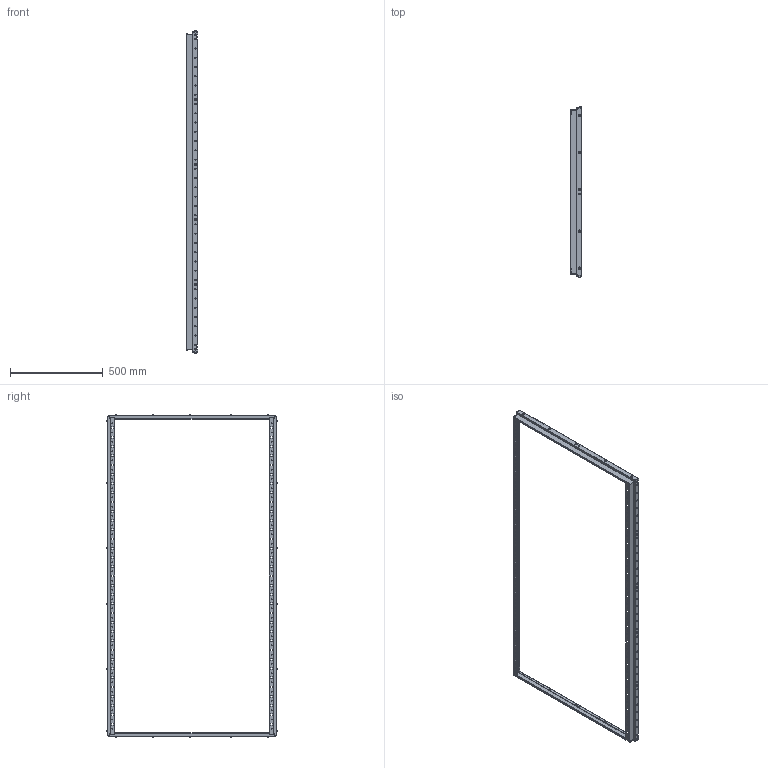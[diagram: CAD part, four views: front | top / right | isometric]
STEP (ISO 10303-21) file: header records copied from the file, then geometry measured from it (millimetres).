
FILE_DESCRIPTION (( 'STEP AP214' ), '1' );
FILE_NAME ('FO-00-UVF-180-100 Ðàìà äëÿ ïëàñòðîíîâ 1800õ1000.STEP', '2025-09-24T13:57:01', ( '' ), ( '' ), 'SwSTEP 2.0', 'SolidWorks 2023', '' );
FILE_SCHEMA (( 'AUTOMOTIVE_DESIGN' ));
Length unit declared in the file: millimetre
Products named in the file (1): FO-00-UVF-180-100 Рама для пластронов 1800х1000
Bounding box: 60.8 x 925 x 1746 mm (x, y, z)
Volume: 780020.8 mm3; surface area: 946808 mm2
Topology: 1 solids, 1 shells, 2206 faces, 5568 edges, 3528 vertices
Faces by surface type: cylinder 1084, plane 1030, sphere 36, cone 36, torus 20
Entity records: 68551 total; most frequent: CARTESIAN_POINT 14413, ORIENTED_EDGE 11136, DIRECTION 10958, EDGE_CURVE 5568, LINE 3756, VECTOR 3756, AXIS2_PLACEMENT_3D 3601, VERTEX_POINT 3528
